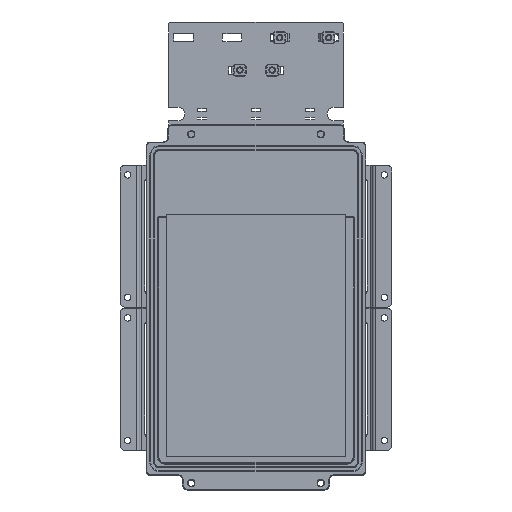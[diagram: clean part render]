
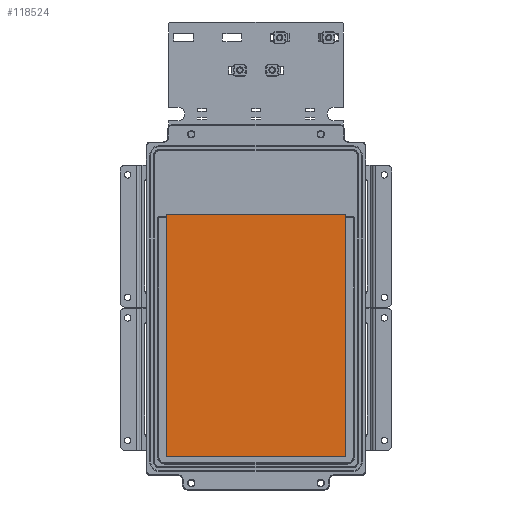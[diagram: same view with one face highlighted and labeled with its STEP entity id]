
A CAD part, front view. The second image highlights one B-rep face of the part: STEP entity #118524.
In plain terms, the highlighted planar face has unit normal (0, -1, 0).
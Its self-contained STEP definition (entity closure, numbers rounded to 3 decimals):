
#3782 = DIRECTION ( 'NONE',  ( -1., 0., 0. ) ) ;
#14322 = AXIS2_PLACEMENT_3D ( 'NONE', #32606, #76013, #119333 ) ;
#14437 = CARTESIAN_POINT ( 'NONE',  ( 93.5, -29.5, -151. ) ) ;
#17841 = VECTOR ( 'NONE', #133446, 1000. ) ;
#17994 = DIRECTION ( 'NONE',  ( 0., 0., 1. ) ) ;
#22582 = ORIENTED_EDGE ( 'NONE', *, *, #66720, .T. ) ;
#32606 = CARTESIAN_POINT ( 'NONE',  ( 93.5, -29.5, -151. ) ) ;
#34213 = CARTESIAN_POINT ( 'NONE',  ( 93.5, -29.5, -151. ) ) ;
#36149 = CARTESIAN_POINT ( 'NONE',  ( 93.5, -29.5, 96. ) ) ;
#43957 = LINE ( 'NONE', #34213, #83385 ) ;
#54297 = FACE_OUTER_BOUND ( 'NONE', #87515, .T. ) ;
#54502 = DIRECTION ( 'NONE',  ( 0., 0., 1. ) ) ;
#55247 = ORIENTED_EDGE ( 'NONE', *, *, #88538, .F. ) ;
#56286 = LINE ( 'NONE', #89225, #104283 ) ;
#59578 = CARTESIAN_POINT ( 'NONE',  ( -89.5, -29.5, 96. ) ) ;
#66720 = EDGE_CURVE ( 'NONE', #76277, #104910, #43957, .T. ) ;
#66984 = CARTESIAN_POINT ( 'NONE',  ( -89.5, -29.5, 96. ) ) ;
#74798 = LINE ( 'NONE', #66984, #17841 ) ;
#76013 = DIRECTION ( 'NONE',  ( 0., 1., 0. ) ) ;
#76277 = VERTEX_POINT ( 'NONE', #14437 ) ;
#79184 = VECTOR ( 'NONE', #17994, 1000. ) ;
#81726 = LINE ( 'NONE', #124310, #79184 ) ;
#83385 = VECTOR ( 'NONE', #54502, 1000. ) ;
#87515 = EDGE_LOOP ( 'NONE', ( #22582, #55247, #90439, #111928 ) ) ;
#88538 = EDGE_CURVE ( 'NONE', #130778, #104910, #74798, .T. ) ;
#89225 = CARTESIAN_POINT ( 'NONE',  ( 93.5, -29.5, -151. ) ) ;
#90439 = ORIENTED_EDGE ( 'NONE', *, *, #118516, .F. ) ;
#94167 = VERTEX_POINT ( 'NONE', #107397 ) ;
#97696 = PLANE ( 'NONE',  #14322 ) ;
#104283 = VECTOR ( 'NONE', #3782, 1000. ) ;
#104910 = VERTEX_POINT ( 'NONE', #36149 ) ;
#106662 = EDGE_CURVE ( 'NONE', #76277, #94167, #56286, .T. ) ;
#107397 = CARTESIAN_POINT ( 'NONE',  ( -89.5, -29.5, -151. ) ) ;
#111928 = ORIENTED_EDGE ( 'NONE', *, *, #106662, .F. ) ;
#118516 = EDGE_CURVE ( 'NONE', #94167, #130778, #81726, .T. ) ;
#118524 = ADVANCED_FACE ( 'NONE', ( #54297 ), #97696, .F. ) ;
#119333 = DIRECTION ( 'NONE',  ( 0., 0., -1. ) ) ;
#124310 = CARTESIAN_POINT ( 'NONE',  ( -89.5, -29.5, -151. ) ) ;
#130778 = VERTEX_POINT ( 'NONE', #59578 ) ;
#133446 = DIRECTION ( 'NONE',  ( 1., 0., 0. ) ) ;
